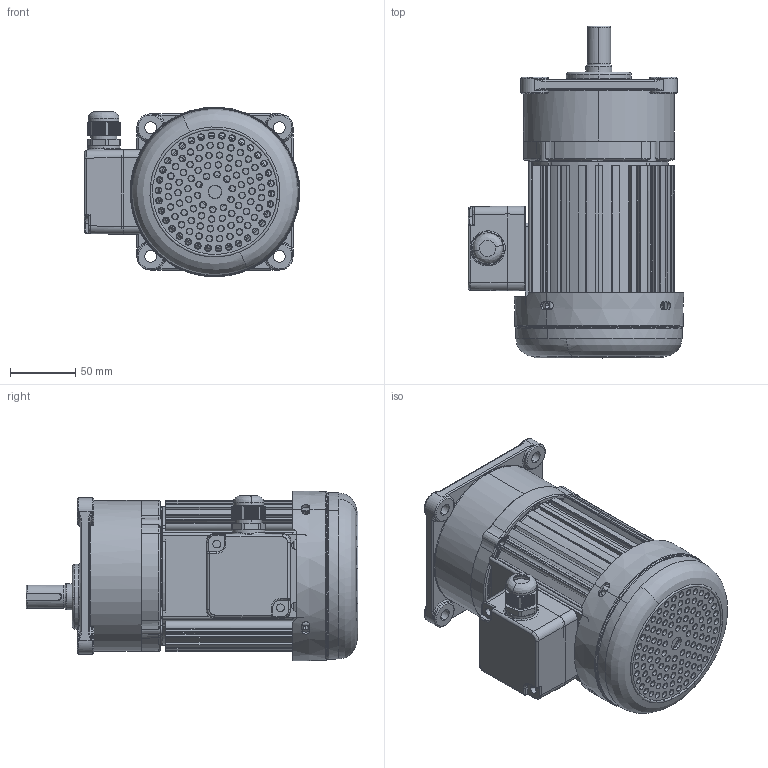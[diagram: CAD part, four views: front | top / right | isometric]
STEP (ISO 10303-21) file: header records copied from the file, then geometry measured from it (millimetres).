
FILE_DESCRIPTION (( 'STEP AP203' ), '1' );
FILE_NAME ('100W配1#立式.STEP', '2019-06-14T01:41:39', ( '微软中国' ), ( '微软用户' ), 'SwSTEP 2.0', 'SolidWorks 2012', '' );
FILE_SCHEMA (( 'CONFIG_CONTROL_DESIGN' ));
Length unit declared in the file: millimetre
Products named in the file (10): 100W饜1#蕾宒; 坶踡ん 蚾饜; 苤諉盄碟 裔; 苤諉盄碟釱; 釱菜; 100W瑞欶; 100W綴傷裔 2_25; 100W 儂褲; 1xgx; 1#蕾宒熬厒ん
Assembly tree (9 placements, depth 2):
  100W饜1#蕾宒
    1#蕾宒熬厒ん
    1xgx
    100W 儂褲
    100W綴傷裔 2_25
    100W瑞欶
    釱菜
    苤諉盄碟釱
    苤諉盄碟 裔
    坶踡ん 蚾饜
Bounding box: 165.71 x 255.05 x 130.46 mm (x, y, z)
Volume: 968301.4 mm3; surface area: 360769.5 mm2
Topology: 6 solids, 10 shells, 2506 faces, 6489 edges, 4042 vertices
Faces by surface type: cylinder 750, bspline 678, plane 615, torus 217, cone 156, sphere 90
Entity records: 114675 total; most frequent: CARTESIAN_POINT 57607, ORIENTED_EDGE 12858, DIRECTION 9989, EDGE_CURVE 6459, VERTEX_POINT 4042, AXIS2_PLACEMENT_3D 3970, EDGE_LOOP 2882, ADVANCED_FACE 2506
